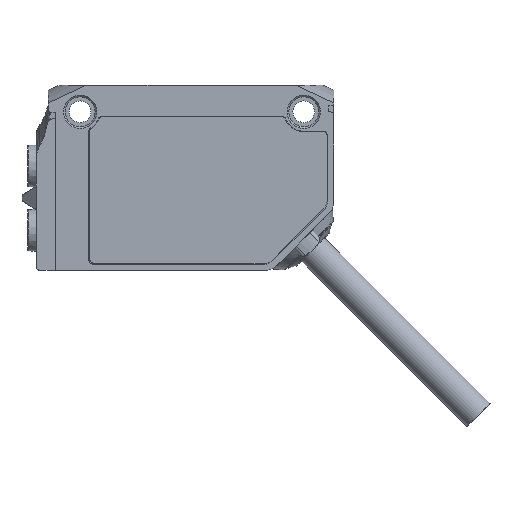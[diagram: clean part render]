
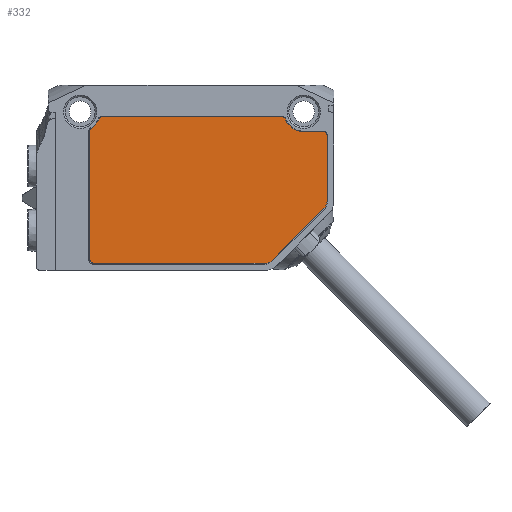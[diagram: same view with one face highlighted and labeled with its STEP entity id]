
A CAD part, left-side view. The second image highlights one B-rep face of the part: STEP entity #332.
In plain terms, the highlighted planar face has unit normal (-1, 0, 0).
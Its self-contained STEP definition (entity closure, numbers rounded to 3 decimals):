
#332 = ADVANCED_FACE( '', ( #723 ), #724, .F. );
#723 = FACE_OUTER_BOUND( '', #1164, .T. );
#724 = PLANE( '', #1165 );
#1164 = EDGE_LOOP( '', ( #2617, #2618, #2619, #2620, #2621, #2622, #2623, #2624, #2625, #2626, #2627, #2628, #2629, #2630, #2631 ) );
#1165 = AXIS2_PLACEMENT_3D( '', #2632, #2633, #2634 );
#2617 = ORIENTED_EDGE( '', *, *, #3300, .F. );
#2618 = ORIENTED_EDGE( '', *, *, #3343, .F. );
#2619 = ORIENTED_EDGE( '', *, *, #3340, .T. );
#2620 = ORIENTED_EDGE( '', *, *, #3337, .F. );
#2621 = ORIENTED_EDGE( '', *, *, #3334, .F. );
#2622 = ORIENTED_EDGE( '', *, *, #3331, .F. );
#2623 = ORIENTED_EDGE( '', *, *, #3328, .F. );
#2624 = ORIENTED_EDGE( '', *, *, #3325, .F. );
#2625 = ORIENTED_EDGE( '', *, *, #3322, .F. );
#2626 = ORIENTED_EDGE( '', *, *, #3319, .F. );
#2627 = ORIENTED_EDGE( '', *, *, #3316, .F. );
#2628 = ORIENTED_EDGE( '', *, *, #3313, .F. );
#2629 = ORIENTED_EDGE( '', *, *, #3310, .F. );
#2630 = ORIENTED_EDGE( '', *, *, #3307, .T. );
#2631 = ORIENTED_EDGE( '', *, *, #3304, .F. );
#2632 = CARTESIAN_POINT( '', ( -6.5, 0.15, 20.442 ) );
#2633 = DIRECTION( '', ( 1., 0., 0. ) );
#2634 = DIRECTION( '', ( 0., 0., -1. ) );
#3300 = EDGE_CURVE( '', #4102, #4103, #4104, .T. );
#3304 = EDGE_CURVE( '', #4103, #4110, #4111, .T. );
#3307 = EDGE_CURVE( '', #4115, #4110, #4116, .T. );
#3310 = EDGE_CURVE( '', #4115, #4120, #4121, .T. );
#3313 = EDGE_CURVE( '', #4120, #4125, #4126, .T. );
#3316 = EDGE_CURVE( '', #4125, #4130, #4131, .T. );
#3319 = EDGE_CURVE( '', #4130, #4135, #4136, .T. );
#3322 = EDGE_CURVE( '', #4135, #4140, #4141, .T. );
#3325 = EDGE_CURVE( '', #4140, #4145, #4146, .T. );
#3328 = EDGE_CURVE( '', #4145, #4150, #4151, .T. );
#3331 = EDGE_CURVE( '', #4150, #4155, #4156, .T. );
#3334 = EDGE_CURVE( '', #4155, #4160, #4161, .T. );
#3337 = EDGE_CURVE( '', #4160, #4165, #4166, .T. );
#3340 = EDGE_CURVE( '', #4170, #4165, #4171, .T. );
#3343 = EDGE_CURVE( '', #4170, #4102, #4175, .T. );
#4102 = VERTEX_POINT( '', #5650 );
#4103 = VERTEX_POINT( '', #5651 );
#4104 = LINE( '', #5652, #5653 );
#4110 = VERTEX_POINT( '', #5662 );
#4111 = CIRCLE( '', #5663, 0.42 );
#4115 = VERTEX_POINT( '', #5668 );
#4116 = CIRCLE( '', #5669, 2.28 );
#4120 = VERTEX_POINT( '', #5674 );
#4121 = LINE( '', #5675, #5676 );
#4125 = VERTEX_POINT( '', #5682 );
#4126 = CIRCLE( '', #5683, 0.42 );
#4130 = VERTEX_POINT( '', #5688 );
#4131 = LINE( '', #5689, #5690 );
#4135 = VERTEX_POINT( '', #5696 );
#4136 = CIRCLE( '', #5697, 1.22 );
#4140 = VERTEX_POINT( '', #5702 );
#4141 = LINE( '', #5703, #5704 );
#4145 = VERTEX_POINT( '', #5710 );
#4146 = CIRCLE( '', #5711, 1.22 );
#4150 = VERTEX_POINT( '', #5716 );
#4151 = LINE( '', #5717, #5718 );
#4155 = VERTEX_POINT( '', #5724 );
#4156 = CIRCLE( '', #5725, 0.42 );
#4160 = VERTEX_POINT( '', #5730 );
#4161 = LINE( '', #5731, #5732 );
#4165 = VERTEX_POINT( '', #5738 );
#4166 = CIRCLE( '', #5739, 0.42 );
#4170 = VERTEX_POINT( '', #5744 );
#4171 = CIRCLE( '', #5745, 2.28 );
#4175 = CIRCLE( '', #5750, 0.42 );
#5650 = CARTESIAN_POINT( '', ( -6.5, 26.267, 17.45 ) );
#5651 = CARTESIAN_POINT( '', ( -6.5, 5.883, 17.45 ) );
#5652 = CARTESIAN_POINT( '', ( -6.5, 26.267, 17.45 ) );
#5653 = VECTOR( '', #6462, 1000. );
#5662 = CARTESIAN_POINT( '', ( -6.5, 5.493, 17.186 ) );
#5663 = AXIS2_PLACEMENT_3D( '', #6466, #6467, #6468 );
#5668 = CARTESIAN_POINT( '', ( -6.5, 3.375, 15.75 ) );
#5669 = AXIS2_PLACEMENT_3D( '', #6473, #6474, #6475 );
#5674 = CARTESIAN_POINT( '', ( -6.5, 1.17, 15.75 ) );
#5675 = CARTESIAN_POINT( '', ( -6.5, 3.375, 15.75 ) );
#5676 = VECTOR( '', #6480, 1000. );
#5682 = CARTESIAN_POINT( '', ( -6.5, 0.75, 15.33 ) );
#5683 = AXIS2_PLACEMENT_3D( '', #6483, #6484, #6485 );
#5688 = CARTESIAN_POINT( '', ( -6.5, 0.75, 7.86 ) );
#5689 = CARTESIAN_POINT( '', ( -6.5, 0.75, 15.33 ) );
#5690 = VECTOR( '', #6490, 1000. );
#5696 = CARTESIAN_POINT( '', ( -6.5, 1.107, 6.997 ) );
#5697 = AXIS2_PLACEMENT_3D( '', #6493, #6494, #6495 );
#5702 = CARTESIAN_POINT( '', ( -6.5, 6.937, 1.167 ) );
#5703 = CARTESIAN_POINT( '', ( -6.5, 1.107, 6.997 ) );
#5704 = VECTOR( '', #6500, 1000. );
#5710 = CARTESIAN_POINT( '', ( -6.5, 7.8, 0.81 ) );
#5711 = AXIS2_PLACEMENT_3D( '', #6503, #6504, #6505 );
#5716 = CARTESIAN_POINT( '', ( -6.5, 27.28, 0.81 ) );
#5717 = CARTESIAN_POINT( '', ( -6.5, 7.8, 0.81 ) );
#5718 = VECTOR( '', #6510, 1000. );
#5724 = CARTESIAN_POINT( '', ( -6.5, 27.7, 1.23 ) );
#5725 = AXIS2_PLACEMENT_3D( '', #6513, #6514, #6515 );
#5730 = CARTESIAN_POINT( '', ( -6.5, 27.7, 15.782 ) );
#5731 = CARTESIAN_POINT( '', ( -6.5, 27.7, 1.23 ) );
#5732 = VECTOR( '', #6520, 1000. );
#5738 = CARTESIAN_POINT( '', ( -6.5, 27.513, 16.131 ) );
#5739 = AXIS2_PLACEMENT_3D( '', #6523, #6524, #6525 );
#5744 = CARTESIAN_POINT( '', ( -6.5, 26.657, 17.186 ) );
#5745 = AXIS2_PLACEMENT_3D( '', #6530, #6531, #6532 );
#5750 = AXIS2_PLACEMENT_3D( '', #6537, #6538, #6539 );
#6462 = DIRECTION( '', ( 0., -1., 0. ) );
#6466 = CARTESIAN_POINT( '', ( -6.5, 5.883, 17.03 ) );
#6467 = DIRECTION( '', ( 1., 0., 0. ) );
#6468 = DIRECTION( '', ( 0., 0., -1. ) );
#6473 = CARTESIAN_POINT( '', ( -6.5, 3.375, 18.03 ) );
#6474 = DIRECTION( '', ( 1., 0., 0. ) );
#6475 = DIRECTION( '', ( 0., 0., -1. ) );
#6480 = DIRECTION( '', ( 0., -1., 0. ) );
#6483 = CARTESIAN_POINT( '', ( -6.5, 1.17, 15.33 ) );
#6484 = DIRECTION( '', ( 1., 0., 0. ) );
#6485 = DIRECTION( '', ( 0., 0., -1. ) );
#6490 = DIRECTION( '', ( 0., 0., -1. ) );
#6493 = CARTESIAN_POINT( '', ( -6.5, 1.97, 7.86 ) );
#6494 = DIRECTION( '', ( 1., 0., 0. ) );
#6495 = DIRECTION( '', ( 0., 0., -1. ) );
#6500 = DIRECTION( '', ( 0., 0.707, -0.707 ) );
#6503 = CARTESIAN_POINT( '', ( -6.5, 7.8, 2.03 ) );
#6504 = DIRECTION( '', ( 1., 0., 0. ) );
#6505 = DIRECTION( '', ( 0., 0., -1. ) );
#6510 = DIRECTION( '', ( 0., 1., 0. ) );
#6513 = CARTESIAN_POINT( '', ( -6.5, 27.28, 1.23 ) );
#6514 = DIRECTION( '', ( 1., 0., 0. ) );
#6515 = DIRECTION( '', ( 0., 0., -1. ) );
#6520 = DIRECTION( '', ( 0., 0., 1. ) );
#6523 = CARTESIAN_POINT( '', ( -6.5, 27.28, 15.782 ) );
#6524 = DIRECTION( '', ( 1., 0., 0. ) );
#6525 = DIRECTION( '', ( 0., 0., -1. ) );
#6530 = CARTESIAN_POINT( '', ( -6.5, 28.775, 18.03 ) );
#6531 = DIRECTION( '', ( 1., 0., 0. ) );
#6532 = DIRECTION( '', ( 0., 0., -1. ) );
#6537 = CARTESIAN_POINT( '', ( -6.5, 26.267, 17.03 ) );
#6538 = DIRECTION( '', ( 1., 0., 0. ) );
#6539 = DIRECTION( '', ( 0., 0., -1. ) );
